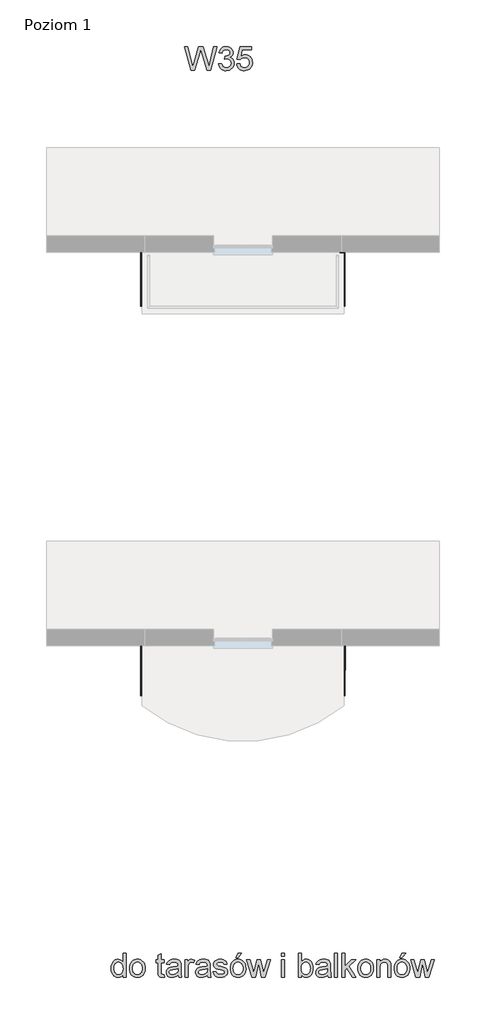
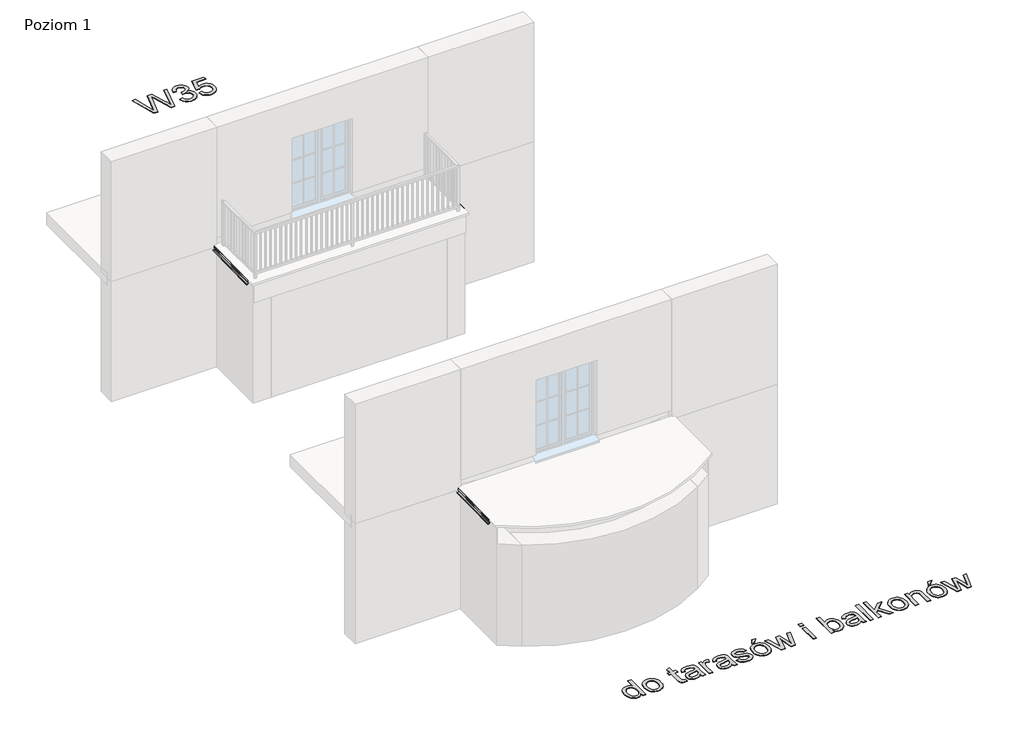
# One storey, part 2 of 4: 6 proxies.
"""IFC4 building model written with IfcOpenShell, lengths in millimetres."""

from ifc_helpers import new_model, si_unit, origin, origin_with_axes, place, context, project, spatial, polyline, outline, extrude, transform, mapped, element, save
from components import generic_models_76c9198c, generic_models_6ff2464a, generic_models_87c91727, generic_models_27867270

model = new_model("IFC4")

# Units and contexts
model_context = context("Model", 3, world=origin())
ifc_project = project(units=[si_unit("LENGTHUNIT", "METRE", prefix="MILLI")], contexts=[model_context])

# Site, building, storey
site = spatial("IfcSite", under=ifc_project)
building = spatial("IfcBuilding", under=site)
storey = spatial("IfcBuildingStorey", under=building, Name="Poziom 1", Elevation=0.0)

# Proxies
placement = place(None, origin())
generic_models_shape = generic_models_76c9198c(model_context)
element("IfcBuildingElementProxy", 1, Name="W35 Profil okapowy prosty : Renoplast", ObjectType="W35 Profil okapowy prosty : Renoplast", at=placement, inside=storey, context=model_context, shape_type="MappedRepresentation", body=[
    mapped(generic_models_shape, transform((-64498.8216237, -59151.9892013, -89.3259349), x_axis=(0.0, 0.9998161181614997, 0.019176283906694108), y_axis=(-1.0000000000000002, 0.0, 0.0), z_axis=(0.0, -0.019176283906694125, 0.9998161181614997))),
])
generic_models_2_shape = generic_models_6ff2464a(model_context)
element("IfcBuildingElementProxy", 2, Name="W35 Profil okapowy prosty : Renoplast", ObjectType="W35 Profil okapowy prosty : Renoplast", at=placement, inside=storey, context=model_context, shape_type="MappedRepresentation", body=[
    mapped(generic_models_2_shape, transform((-69624.8216237, -59152.1083642, -89.3282204), x_axis=(0.0, 0.9998161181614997, 0.019176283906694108), y_axis=(-1.0000000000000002, 0.0, 0.0), z_axis=(0.0, -0.019176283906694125, 0.9998161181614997))),
])
generic_models_3_shape = generic_models_87c91727(model_context)
element("IfcBuildingElementProxy", 3, Name="W35 Profil okapowy prosty : Renoplast", ObjectType="W35 Profil okapowy prosty : Renoplast", at=placement, inside=storey, context=model_context, shape_type="MappedRepresentation", body=[
    mapped(generic_models_3_shape, transform((-64498.6673242, -69053.3805455, -77.8164429), x_axis=(0.0011898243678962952, 0.9999301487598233, 0.011759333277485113), y_axis=(-0.9999992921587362, 0.0011897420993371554, 1.399155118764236e-05), z_axis=(0.0, -0.011759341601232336, 0.9999308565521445))),
])
generic_models_4_shape = generic_models_27867270(model_context)
element("IfcBuildingElementProxy", 4, Name="W35 Profil okapowy prosty : Renoplast", ObjectType="W35 Profil okapowy prosty : Renoplast", at=placement, inside=storey, context=model_context, shape_type="MappedRepresentation", body=[
    mapped(generic_models_4_shape, transform((-69625.5323175, -69053.3804574, -77.8164419), x_axis=(0.00024381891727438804, 0.999930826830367, 0.011759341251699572), y_axis=(-0.9999999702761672, 0.00024380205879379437, 2.8671499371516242e-06), z_axis=(0.0, -0.011759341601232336, 0.9999308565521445))),
])
element("IfcBuildingElementProxy", 5, Name="600 mm Arial", ObjectType="600 mm Arial", at=placement, inside=storey, context=model_context, shape_type="SweptSolid", body=[
    extrude(outline(polyline([(-68381.9990583, -53150.9895134), (-68546.3687337, -52548.2516525), (-68468.6720564, -52548.2516525), (-68373.3170432, -52944.3869849), (-68343.8864836, -53066.6709601), (-68312.3957848, -52958.5136536), (-68192.9077128, -52548.2516525), (-68080.9244335, -52548.2516525), (-67994.1042826, -52845.6474574), (-67956.9114129, -52956.012056), (-67929.5042042, -53066.6709601), (-67900.9565614, -52947.9186521), (-67804.7186315, -52548.2516525), (-67727.0219541, -52548.2516525), (-67891.5387823, -53150.9895134), (-67972.0313629, -53150.9895134), (-68116.5354106, -52685.9866715), (-68136.6953439, -52621.0922876), (-68159.3568748, -52699.2304234), (-68291.0586291, -53150.9895134), (-68381.9990583, -53150.9895134)])), origin_with_axes(), (0.0, 0.0, 1.0), 10.0),
    extrude(outline(polyline([(-67679.9330587, -52990.8872691), (-67604.5908261, -52981.4694901), (-67587.7234366, -53028.8159028), (-67576.3512844, -53046.722559), (-67563.0201606, -53060.7848482), (-67547.4265626, -53071.4074408), (-67529.2669876, -53078.995007), (-67508.5414357, -53083.5475467), (-67485.2499069, -53085.0650599), (-67457.9530628, -53082.9773296), (-67433.5992747, -53076.7141386), (-67412.1885426, -53066.275487), (-67393.7208665, -53051.6613747), (-67378.8492368, -53033.9662508), (-67368.2266442, -53014.284564), (-67361.8530886, -52992.6163145), (-67359.7285701, -52968.9615022), (-67361.8346945, -52946.4333285), (-67368.1530678, -52925.9377029), (-67378.6836899, -52907.4746253), (-67393.4265609, -52891.0440956), (-67411.4159904, -52877.556622), (-67431.6862884, -52867.9227122), (-67454.2374547, -52862.1423664), (-67479.0694893, -52860.2155844), (-67502.8714544, -52862.2757236), (-67531.8973438, -52868.4561411), (-67523.5096344, -52793.1139085), (-67511.4431049, -52793.9968253), (-67466.3039841, -52788.58896), (-67425.9473292, -52772.365364), (-67409.3374572, -52760.0964995), (-67397.4732628, -52744.9213672), (-67390.3547462, -52726.8399671), (-67387.9819073, -52705.8522993), (-67389.7017557, -52688.8147644), (-67394.8613006, -52673.3131368), (-67403.4605423, -52659.3474166), (-67415.4994806, -52646.9176036), (-67430.2515486, -52636.7134768), (-67446.9901794, -52629.4248148), (-67486.4271292, -52623.5938851), (-67507.0837033, -52625.0654131), (-67525.9376555, -52629.4799971), (-67542.988986, -52636.837637), (-67558.2376947, -52647.1383328), (-67571.3067026, -52660.3820847), (-67581.8189306, -52676.5688925), (-67589.7743787, -52695.6987562), (-67595.173047, -52717.7716759), (-67670.5152796, -52708.3538968), (-67661.5849442, -52672.3842348), (-67648.3319953, -52640.7003979), (-67630.756433, -52613.3023863), (-67608.8582572, -52590.1902), (-67583.3272468, -52571.8420855), (-67554.8531803, -52558.7362894), (-67523.436058, -52550.8728118), (-67489.0758796, -52548.2516525), (-67441.7110727, -52553.4203946), (-67398.2090268, -52568.9266207), (-67361.5311919, -52593.3907733), (-67334.639018, -52625.4332951), (-67318.1395106, -52662.3502533), (-67312.6396747, -52701.4377153), (-67317.8635991, -52737.8580329), (-67333.535372, -52770.893836), (-67359.4342645, -52799.0368086), (-67395.3395472, -52820.7786346), (-67370.2316011, -52828.6329152), (-67348.1770755, -52839.8349219), (-67329.1759704, -52854.3846548), (-67313.2282859, -52872.2821139), (-67300.6099335, -52893.0858407), (-67291.5968246, -52916.3543769), (-67286.1889593, -52942.0877225), (-67284.3863375, -52970.2858774), (-67287.991581, -53008.5088167), (-67298.8073117, -53043.7151236), (-67316.8335295, -53075.9047982), (-67342.0702343, -53105.0778404), (-67372.8159721, -53129.2844757), (-67407.3692885, -53146.5749295), (-67445.7301835, -53156.9492018), (-67487.8986572, -53160.4072925), (-67526.0112319, -53157.4550395), (-67560.7392923, -53148.5982805), (-67592.0828383, -53133.8370154), (-67620.0418699, -53113.1712443), (-67643.48515, -53087.8149778), (-67661.2814416, -53058.9822264), (-67673.4307444, -53026.6729902), (-67679.9330587, -52990.8872691)])), origin_with_axes(), (0.0, 0.0, 1.0), 10.0),
    extrude(outline(polyline([(-67218.461884, -52990.8872691), (-67143.1196513, -52981.4694901), (-67137.4910568, -53005.6899209), (-67129.2872883, -53026.7005814), (-67118.5083459, -53044.5014714), (-67105.1542294, -53059.092591), (-67089.2525302, -53070.4555462), (-67070.8308393, -53078.5719427), (-67049.8891567, -53083.4417806), (-67026.4274825, -53085.0650599), (-66997.7326869, -53082.8071842), (-66972.4224056, -53076.0335569), (-66950.4966387, -53064.7441782), (-66931.9553861, -53048.939048), (-66917.2125152, -53029.3999155), (-66906.681893, -53006.90853), (-66900.3635198, -52981.4648915), (-66898.2573954, -52953.069), (-66900.2301626, -52926.2320085), (-66906.1484642, -52902.3748611), (-66916.0123001, -52881.4975579), (-66929.8216705, -52863.6000988), (-66947.6225606, -52849.2435039), (-66969.4609555, -52838.9887933), (-66995.3368554, -52832.835967), (-67025.2502601, -52830.7850248), (-67061.7993363, -52834.0591746), (-67091.3954428, -52843.8816239), (-67115.031861, -52858.9279975), (-67133.7018723, -52877.8739202), (-67209.0441049, -52868.4561411), (-67143.1196513, -52557.6694316), (-66851.1685, -52557.6694316), (-66851.1685, -52633.0116642), (-67082.1983929, -52633.0116642), (-67114.4248557, -52799.0000204), (-67087.8361845, -52779.9437331), (-67060.6037198, -52766.3320993), (-67032.7274616, -52758.165119), (-67004.20741, -52755.4427922), (-66967.5157795, -52758.8181095), (-66933.8131902, -52768.9440614), (-66903.0996421, -52785.820648), (-66875.3751353, -52809.4478691), (-66852.4238973, -52838.381788), (-66836.0301559, -52871.1784679), (-66826.193911, -52907.8379087), (-66822.9151627, -52948.3601105), (-66825.8674158, -52987.3923902), (-66834.7241748, -53023.7023431), (-66849.4854398, -53057.2899693), (-66870.1512109, -53088.1552687), (-66901.4579687, -53119.7655291), (-66937.9886508, -53142.3442865), (-66979.7432573, -53155.891541), (-67026.7217881, -53160.4072925), (-67065.6023164, -53157.5056233), (-67100.7212514, -53148.8006156), (-67132.078593, -53134.2922694), (-67159.6743411, -53113.9805847), (-67182.6347762, -53088.8772371), (-67200.0861783, -53059.9939019), (-67212.0285476, -53027.3305793), (-67218.461884, -52990.8872691)])), origin_with_axes(), (0.0, 0.0, 1.0), 10.0),
])
element("IfcBuildingElementProxy", 6, Name="600 mm Arial", ObjectType="600 mm Arial", at=placement, inside=storey, context=model_context, shape_type="SweptSolid", body=[
    extrude(outline(polyline([(-70116.3162406, -76205.0457742), (-70116.3162406, -76133.9709728), (-70138.8582098, -76169.1864768), (-70166.1642509, -76194.3404082), (-70198.2343639, -76209.432767), (-70235.0685486, -76214.4635533), (-70259.9373715, -76212.6425374), (-70283.7761248, -76207.1794898), (-70306.5848085, -76198.0744104), (-70328.3634226, -76185.3272993), (-70348.4313854, -76169.319834), (-70366.1081153, -76150.433692), (-70381.3936122, -76128.6688735), (-70394.2878761, -76104.0253784), (-70404.5241927, -76076.9722561), (-70411.8358473, -76047.9785564), (-70417.685171, -75984.1694243), (-70412.2956998, -75921.1512386), (-70396.1272861, -75864.2398939), (-70384.0055744, -75838.8836274), (-70369.1983241, -75816.6727519), (-70351.7055352, -75797.6072675), (-70331.5272078, -75781.6871742), (-70309.3761131, -75769.1332011), (-70285.9650227, -75760.1660775), (-70261.2939364, -75754.7858033), (-70235.3628542, -75752.9923786), (-70198.5010783, -75758.1243324), (-70165.9067335, -75773.5201939), (-70138.2787957, -75797.1198239), (-70116.3162406, -75826.8630832), (-70116.3162406, -75602.3079133), (-70040.974008, -75602.3079133), (-70040.974008, -76205.0457742), (-70116.3162406, -76205.0457742)]), holes=[polyline([(-70342.3429384, -75983.8751187), (-70340.2184199, -76020.4103994), (-70333.8448643, -76052.0252583), (-70323.2222717, -76078.7196956), (-70308.3506421, -76100.4937112), (-70290.5911388, -76117.3932904), (-70271.3049252, -76129.4644183), (-70250.4920013, -76136.7070951), (-70228.1523671, -76139.1213207), (-70205.7069669, -76136.8174597), (-70185.0182032, -76129.9058767), (-70166.086076, -76118.3865717), (-70148.9105854, -76102.2595448), (-70134.6505595, -76081.3960371), (-70124.4648268, -76055.6672901), (-70118.3533871, -76025.0733037), (-70116.3162406, -75989.6140779), (-70118.3901753, -75950.738148), (-70124.6119796, -75917.3988422), (-70134.9816533, -75889.5961604), (-70149.4991966, -75867.3301027), (-70167.0517662, -75850.2695751), (-70186.5265194, -75838.083484), (-70207.9234559, -75830.7718294), (-70231.2425759, -75828.3346112), (-70254.0236684, -75830.6752604), (-70274.8365923, -75837.6972079), (-70293.6813475, -75849.4004539), (-70310.557934, -75865.7849983), (-70324.4638735, -75887.209526), (-70334.3966873, -75914.0327219), (-70340.3563756, -75946.2545862), (-70342.3429384, -75983.8751187)])]), origin_with_axes(), (0.0, 0.0, 1.0), 10.0),
    extrude(outline(polyline([(-69946.7962172, -75983.7279659), (-69942.7219241, -75926.402754), (-69930.4990448, -75877.0053991), (-69910.1275793, -75835.5359012), (-69881.6075277, -75801.9942603), (-69852.8943379, -75780.555937), (-69821.2013041, -75765.242849), (-69786.528426, -75756.0549962), (-69748.8757038, -75752.9923786), (-69707.3096369, -75756.7217823), (-69669.7258925, -75767.9099935), (-69636.1244708, -75786.5570121), (-69606.5053717, -75812.6628382), (-69582.3309261, -75845.3445549), (-69565.0634649, -75883.7192455), (-69554.7029882, -75927.78691), (-69551.249496, -75977.5475484), (-69552.7762063, -76017.8766121), (-69557.3563371, -76053.6623332), (-69564.9898885, -76084.9047117), (-69575.6768605, -76111.6037475), (-69589.2838958, -76134.66535), (-69605.6776372, -76154.9954288), (-69624.8580847, -76172.5939837), (-69646.8252383, -76187.4610149), (-69670.7237725, -76199.2746254), (-69695.6983614, -76207.7129187), (-69721.7490052, -76212.7758947), (-69748.8757038, -76214.4635533), (-69791.048776, -76210.7479452), (-69828.9820083, -76199.6011207), (-69862.6754005, -76181.0230799), (-69892.1289527, -76155.0138229), (-69916.0458809, -76122.0148079), (-69933.1294011, -76082.4674934), (-69943.3795132, -76036.3718794), (-69946.7962172, -75983.7279659)]), holes=[polyline([(-69871.4539846, -75983.5808131), (-69869.2742838, -76020.1252908), (-69862.7351813, -76051.7677409), (-69851.8366772, -76078.5081635), (-69836.5787715, -76100.3465584), (-69818.0191248, -76117.3105169), (-69797.215398, -76129.4276301), (-69774.167591, -76136.6978981), (-69748.8757038, -76139.1213207), (-69723.7125753, -76136.6841025), (-69700.7567388, -76129.3724478), (-69680.0081943, -76117.1863567), (-69661.4669417, -76100.1258292), (-69646.209036, -76078.0713036), (-69635.3105319, -76050.9032183), (-69628.7714294, -76018.6215732), (-69626.5917286, -75981.2263684), (-69628.785225, -75945.840719), (-69635.3657142, -75915.0260033), (-69646.3331962, -75888.7822215), (-69661.6876709, -75867.1093735), (-69680.2979014, -75850.145415), (-69701.0326503, -75838.0283017), (-69723.8919178, -75830.7580338), (-69748.8757038, -75828.3346112), (-69774.167591, -75830.7488368), (-69797.215398, -75837.9915135), (-69818.0191248, -75850.0626415), (-69836.5787715, -75866.9622207), (-69851.8366772, -75888.7362363), (-69862.7351813, -75915.4306735), (-69869.2742838, -75947.0455325), (-69871.4539846, -75983.5808131)])]), origin_with_axes(), (0.0, 0.0, 1.0), 10.0),
    extrude(outline(polyline([(-69070.9427631, -76142.2115295), (-69061.524984, -76207.2530662), (-69117.8845057, -76214.4635533), (-69154.0473058, -76211.3365563), (-69181.013056, -76201.9555655), (-69200.0693434, -76187.4978031), (-69212.5037548, -76169.1404915), (-69219.3463599, -76137.6130045), (-69221.6272283, -76083.6447158), (-69221.6272283, -75837.7523902), (-69278.1339028, -75837.7523902), (-69278.1339028, -75762.4101576), (-69221.6272283, -75762.4101576), (-69221.6272283, -75654.8414622), (-69146.2849957, -75610.54847), (-69146.2849957, -75762.4101576), (-69070.9427631, -75762.4101576), (-69070.9427631, -75837.7523902), (-69146.2849957, -75837.7523902), (-69146.2849957, -76081.4374239), (-69142.3118702, -76120.2857625), (-69129.4360003, -76134.0445492), (-69118.5650874, -76137.8521278), (-69103.7578371, -76139.1213207), (-69070.9427631, -76142.2115295)])), origin_with_axes(), (0.0, 0.0, 1.0), 10.0),
    extrude(outline(polyline([(-68713.0671582, -76148.5390998), (-68749.0644114, -76179.4043992), (-68786.1285224, -76199.6011207), (-68825.1056198, -76210.7479452), (-68866.8418322, -76214.4635533), (-68900.3880716, -76212.2286702), (-68929.8048356, -76205.5240208), (-68955.0921243, -76194.3496052), (-68976.2499375, -76178.7054234), (-68992.9563786, -76159.5847567), (-69004.8895509, -76137.9808865), (-69012.0494542, -76113.8938129), (-69014.4360886, -76087.3235358), (-69010.8308451, -76056.0903544), (-69000.0151144, -76027.7266526), (-68983.3316659, -76003.4464409), (-68962.1232689, -75984.4637299), (-68937.1992637, -75970.1163321), (-68909.3689908, -75959.7420598), (-68844.1803013, -75948.4112944), (-68767.1458115, -75936.4919178), (-68713.5086166, -75922.5124019), (-68713.0671582, -75905.736983), (-68718.2542943, -75872.1125686), (-68724.7382145, -75859.6597631), (-68733.8157027, -75850.1132253), (-68749.5058698, -75840.5850816), (-68768.6173395, -75833.7792647), (-68817.1041864, -75828.3346112), (-68861.9857898, -75831.9582488), (-68893.3293358, -75842.8291618), (-68914.7032797, -75862.9339128), (-68929.6760769, -75894.2590647), (-69005.0183096, -75884.8412856), (-68991.9401046, -75843.6385022), (-68972.4239648, -75811.2648866), (-68944.6488741, -75786.5064283), (-68906.7938168, -75768.1491168), (-68860.4958677, -75756.7815631), (-68807.3921017, -75752.9923786), (-68756.4588395, -75756.3401047), (-68716.0837905, -75766.3832832), (-68685.6415554, -75781.4848391), (-68664.5067348, -75800.0076975), (-68650.4904308, -75822.9083517), (-68641.4037455, -75851.1432949), (-68637.7249256, -75917.0677484), (-68637.7249256, -76010.8040808), (-68633.8989528, -76141.6964947), (-68628.2335701, -76174.0517161), (-68618.8893674, -76205.0457742), (-68694.2316, -76205.0457742), (-68706.2981295, -76178.8525762), (-68713.0671582, -76148.5390998)]), holes=[polyline([(-68713.0671582, -75997.8546345), (-68763.6877207, -76010.3994106), (-68834.6153694, -76020.9576238), (-68899.4361769, -76033.1713061), (-68916.3035664, -76041.5222274), (-68928.7931602, -76053.0369338), (-68936.5186821, -76066.8325086), (-68939.093856, -76082.026035), (-68933.4836556, -76104.4300486), (-68916.6530543, -76122.7873601), (-68888.9699342, -76135.0378305), (-68850.8021772, -76139.1213207), (-68810.3351577, -76134.6147663), (-68774.5770278, -76121.0951029), (-68745.5879266, -76101.1742929), (-68725.4279932, -76077.4642983), (-68716.4884607, -76053.0369338), (-68713.5086166, -76019.1917903), (-68713.0671582, -75997.8546345)])]), origin_with_axes(), (0.0, 0.0, 1.0), 10.0),
    extrude(outline(polyline([(-68534.1293557, -76205.0457742), (-68534.1293557, -75762.4101576), (-68468.2049022, -75762.4101576), (-68468.2049022, -75827.8931528), (-68443.8511141, -75789.9277309), (-68421.4103124, -75767.5605056), (-68398.8959343, -75756.6344103), (-68374.321417, -75752.9923786), (-68336.7974535, -75758.8049141), (-68298.6848788, -75776.2425207), (-68323.8480073, -75843.785655), (-68350.3355109, -75832.1973721), (-68376.8230146, -75828.3346112), (-68399.3189986, -75832.0502193), (-68419.4237496, -75843.1970438), (-68435.6657397, -75860.9289559), (-68446.5734409, -75884.3998272), (-68455.7337026, -75926.4855275), (-68458.7871231, -75972.3972005), (-68458.7871231, -76205.0457742), (-68534.1293557, -76205.0457742)])), origin_with_axes(), (0.0, 0.0, 1.0), 10.0),
    extrude(outline(polyline([(-67969.0626111, -76148.5390998), (-68005.0598644, -76179.4043992), (-68042.1239754, -76199.6011207), (-68081.1010728, -76210.7479452), (-68122.8372851, -76214.4635533), (-68156.3835246, -76212.2286702), (-68185.8002886, -76205.5240208), (-68211.0875772, -76194.3496052), (-68232.2453905, -76178.7054234), (-68248.9518316, -76159.5847567), (-68260.8850038, -76137.9808865), (-68268.0449071, -76113.8938129), (-68270.4315416, -76087.3235358), (-68266.826298, -76056.0903544), (-68256.0105674, -76027.7266526), (-68239.3271189, -76003.4464409), (-68218.1187219, -75984.4637299), (-68193.1947167, -75970.1163321), (-68165.3644438, -75959.7420598), (-68100.1757542, -75948.4112944), (-68023.1412644, -75936.4919178), (-67969.5040695, -75922.5124019), (-67969.0626111, -75905.736983), (-67974.2497473, -75872.1125686), (-67980.7336674, -75859.6597631), (-67989.8111557, -75850.1132253), (-68005.5013228, -75840.5850816), (-68024.6127924, -75833.7792647), (-68073.0996394, -75828.3346112), (-68117.9812428, -75831.9582488), (-68149.3247888, -75842.8291618), (-68170.6987327, -75862.9339128), (-68185.6715299, -75894.2590647), (-68261.0137625, -75884.8412856), (-68247.9355576, -75843.6385022), (-68228.4194177, -75811.2648866), (-68200.6443271, -75786.5064283), (-68162.7892698, -75768.1491168), (-68116.4913207, -75756.7815631), (-68063.3875547, -75752.9923786), (-68012.4542925, -75756.3401047), (-67972.0792435, -75766.3832832), (-67941.6370084, -75781.4848391), (-67920.5021878, -75800.0076975), (-67906.4858838, -75822.9083517), (-67897.3991985, -75851.1432949), (-67893.7203785, -75917.0677484), (-67893.7203785, -76010.8040808), (-67889.8944058, -76141.6964947), (-67884.229023, -76174.0517161), (-67874.8848204, -76205.0457742), (-67950.227053, -76205.0457742), (-67962.2935824, -76178.8525762), (-67969.0626111, -76148.5390998)]), holes=[polyline([(-67969.0626111, -75997.8546345), (-68019.6831737, -76010.3994106), (-68090.6108223, -76020.9576238), (-68155.4316299, -76033.1713061), (-68172.2990194, -76041.5222274), (-68184.7886131, -76053.0369338), (-68192.514135, -76066.8325086), (-68195.089309, -76082.026035), (-68189.4791085, -76104.4300486), (-68172.6485073, -76122.7873601), (-68144.9653871, -76135.0378305), (-68106.7976301, -76139.1213207), (-68066.3306107, -76134.6147663), (-68030.5724807, -76121.0951029), (-68001.5833795, -76101.1742929), (-67981.4234462, -76077.4642983), (-67972.4839137, -76053.0369338), (-67969.5040695, -76019.1917903), (-67969.0626111, -75997.8546345)])]), origin_with_axes(), (0.0, 0.0, 1.0), 10.0),
    extrude(outline(polyline([(-67818.3781459, -76073.1968672), (-67743.0359133, -76063.7790881), (-67738.4833736, -76080.9591773), (-67731.1533249, -76096.0055509), (-67721.045767, -76108.9182089), (-67708.1607002, -76119.6971514), (-67692.461336, -76128.1952254), (-67673.9108864, -76134.2652784), (-67628.2567308, -76139.1213207), (-67583.1543982, -76134.6699486), (-67565.6248211, -76129.1057334), (-67551.4429702, -76121.3158321), (-67532.6809885, -76101.9652392), (-67527.990493, -76091.1311144), (-67526.4269945, -76079.5244375), (-67527.9996901, -76069.3525003), (-67532.7177767, -76060.3209973), (-67551.590123, -76045.6792939), (-67579.806672, -76036.114362), (-67629.1396476, -76024.1949854), (-67697.8967925, -76004.3109636), (-67742.5944549, -75987.3332095), (-67771.3076446, -75968.810351), (-67792.1113715, -75944.2910161), (-67804.748118, -75915.338703), (-67808.9603668, -75883.5169104), (-67805.5758525, -75854.3254741), (-67795.4223094, -75827.378118), (-67779.4194426, -75803.7416998), (-67758.4869571, -75784.4830773), (-67737.6832303, -75772.3613656), (-67710.5887213, -75762.1894284), (-67679.2635694, -75755.291641), (-67645.7679138, -75752.9923786), (-67596.7292438, -75756.6895926), (-67554.0917206, -75767.7812348), (-67519.8051186, -75785.1820531), (-67495.8192125, -75807.8067958), (-67479.9267104, -75837.329326), (-67469.9203201, -75875.4235066), (-67545.2625527, -75884.8412856), (-67554.7723023, -75861.131291), (-67573.5894663, -75843.2706202), (-67601.8979859, -75832.0686134), (-67639.8818019, -75828.3346112), (-67683.1447245, -75831.9030665), (-67711.9866729, -75842.6084326), (-67728.2102689, -75858.0594764), (-67733.6181342, -75875.8649649), (-67731.3740541, -75887.4532478), (-67724.6418135, -75897.7907319), (-67713.1271071, -75907.0245699), (-67696.5356291, -75914.418998), (-67631.6412452, -75930.458653), (-67521.0559174, -75965.9224774), (-67491.846087, -75982.8818373), (-67469.6995909, -76006.0951912), (-67455.7384692, -76035.6361155), (-67451.0847619, -76071.5781864), (-67456.5478096, -76108.7342679), (-67472.9369524, -76143.6830574), (-67499.6267912, -76173.6838341), (-67535.9919264, -76195.9958772), (-67579.9170366, -76209.8466343), (-67629.2868004, -76214.4635533), (-67669.8365933, -76212.2378672), (-67705.2544324, -76205.560809), (-67735.5403176, -76194.4323787), (-67760.6942491, -76178.8525762), (-67781.2404585, -76158.8949779), (-67797.7031778, -76134.6331604), (-67810.0824069, -76106.0671234), (-67818.3781459, -76073.1968672)])), origin_with_axes(), (0.0, 0.0, 1.0), 10.0),
    extrude(outline(polyline([(-67243.8936222, -75715.3212623), (-67187.3869478, -75602.3079133), (-67093.209157, -75602.3079133), (-67187.3869478, -75715.3212623), (-67243.8936222, -75715.3212623)])), origin_with_axes(), (0.0, 0.0, 1.0), 10.0),
    extrude(outline(polyline([(-67385.1603084, -75983.7279659), (-67381.0860153, -75926.402754), (-67368.863136, -75877.0053991), (-67348.4916705, -75835.5359012), (-67319.9716188, -75801.9942603), (-67291.2584291, -75780.555937), (-67259.5653952, -75765.242849), (-67224.8925172, -75756.0549962), (-67187.239795, -75752.9923786), (-67145.6737281, -75756.7217823), (-67108.0899837, -75767.9099935), (-67074.488562, -75786.5570121), (-67044.8694629, -75812.6628382), (-67020.6950172, -75845.3445549), (-67003.4275561, -75883.7192455), (-66993.0670794, -75927.78691), (-66989.6135872, -75977.5475484), (-66991.1402975, -76017.8766121), (-66995.7204283, -76053.6623332), (-67003.3539797, -76084.9047117), (-67014.0409517, -76111.6037475), (-67027.647987, -76134.66535), (-67044.0417284, -76154.9954288), (-67063.2221759, -76172.5939837), (-67085.1893295, -76187.4610149), (-67109.0878636, -76199.2746254), (-67134.0624526, -76207.7129187), (-67160.1130964, -76212.7758947), (-67187.239795, -76214.4635533), (-67229.4128672, -76210.7479452), (-67267.3460994, -76199.6011207), (-67301.0394917, -76181.0230799), (-67330.4930439, -76155.0138229), (-67354.4099721, -76122.0148079), (-67371.4934923, -76082.4674934), (-67381.7436044, -76036.3718794), (-67385.1603084, -75983.7279659)]), holes=[polyline([(-67309.8180758, -75983.5808131), (-67307.638375, -76020.1252908), (-67301.0992725, -76051.7677409), (-67290.2007684, -76078.5081635), (-67274.9428626, -76100.3465584), (-67256.383216, -76117.3105169), (-67235.5794892, -76129.4276301), (-67212.5316822, -76136.6978981), (-67187.239795, -76139.1213207), (-67162.0766665, -76136.6841025), (-67139.12083, -76129.3724478), (-67118.3722855, -76117.1863567), (-67099.8310329, -76100.1258292), (-67084.5731272, -76078.0713036), (-67073.6746231, -76050.9032183), (-67067.1355206, -76018.6215732), (-67064.9558198, -75981.2263684), (-67067.1493162, -75945.840719), (-67073.7298054, -75915.0260033), (-67084.6972874, -75888.7822215), (-67100.0517621, -75867.1093735), (-67118.6619926, -75850.145415), (-67139.3967415, -75838.0283017), (-67162.256009, -75830.7580338), (-67187.239795, -75828.3346112), (-67212.5316822, -75830.7488368), (-67235.5794892, -75837.9915135), (-67256.383216, -75850.0626415), (-67274.9428626, -75866.9622207), (-67290.2007684, -75888.7362363), (-67301.0992725, -75915.4306735), (-67307.638375, -75947.0455325), (-67309.8180758, -75983.5808131)])]), origin_with_axes(), (0.0, 0.0, 1.0), 10.0),
    extrude(outline(polyline([(-66831.4243293, -76205.0457742), (-66966.0691395, -75762.4101576), (-66887.7838509, -75762.4101576), (-66811.4115487, -76020.6633182), (-66788.602865, -76112.9281226), (-66769.9144597, -76024.0478326), (-66709.1403541, -75762.4101576), (-66619.3771472, -75762.4101576), (-66558.8973472, -76023.3120686), (-66542.269081, -76103.8046492), (-66518.4303278, -76018.8974847), (-66441.9108728, -75762.4101576), (-66363.3312786, -75762.4101576), (-66499.0061584, -76205.0457742), (-66590.0937404, -76205.0457742), (-66647.9247901, -75945.4682384), (-66664.700209, -75864.5341995), (-66739.3066777, -76205.0457742), (-66831.4243293, -76205.0457742)])), origin_with_axes(), (0.0, 0.0, 1.0), 10.0),
    extrude(outline(polyline([(-66076.0890168, -75677.6501459), (-66076.0890168, -75602.3079133), (-66000.7467841, -75602.3079133), (-66000.7467841, -75677.6501459), (-66076.0890168, -75677.6501459)])), origin_with_axes(), (0.0, 0.0, 1.0), 10.0),
    extrude(outline(polyline([(-66076.0890168, -76205.0457742), (-66076.0890168, -75762.4101576), (-66000.7467841, -75762.4101576), (-66000.7467841, -76205.0457742), (-66076.0890168, -76205.0457742)])), origin_with_axes(), (0.0, 0.0, 1.0), 10.0),
    extrude(outline(polyline([(-65576.9467257, -76205.0457742), (-65652.2889583, -76205.0457742), (-65652.2889583, -75602.3079133), (-65576.9467257, -75602.3079133), (-65576.9467257, -75825.8330136), (-65552.1698733, -75793.9652358), (-65524.1924476, -75771.2025373), (-65493.0144485, -75757.5449182), (-65458.6358761, -75752.9923786), (-65419.8243256, -75757.0942628), (-65383.1464906, -75769.3999155), (-65350.6992987, -75789.1367846), (-65324.579677, -75815.5323177), (-65304.107044, -75848.3289976), (-65288.6008179, -75887.2693068), (-65278.8335509, -75930.7345645), (-65275.5777953, -75977.10609), (-65278.948514, -76030.6145262), (-65289.0606704, -76077.6850275), (-65305.9142643, -76118.3175939), (-65329.5092957, -76152.5122253), (-65357.8316108, -76179.6159313), (-65388.8670557, -76198.9757213), (-65422.6156302, -76210.5915953), (-65459.0773344, -76214.4635533), (-65494.587144, -76209.4695552), (-65526.0686458, -76194.487561), (-65553.5218397, -76169.5175705), (-65576.9467257, -76134.559584), (-65576.9467257, -76205.0457742)]), holes=[polyline([(-65576.9467257, -75980.6377572), (-65571.7963778, -76043.472002), (-65565.3584429, -76067.273967), (-65556.345334, -76085.9991606), (-65538.08919, -76109.2401056), (-65516.8715959, -76125.8407807), (-65492.6925518, -76135.8011857), (-65465.5520576, -76139.1213207), (-65443.0192854, -76136.6749054), (-65422.0684057, -76129.3356596), (-65402.6994187, -76117.1035833), (-65384.9123242, -76099.9786764), (-65370.0406946, -76078.0069242), (-65359.418102, -76051.234312), (-65353.0445464, -76019.6608398), (-65350.9200279, -75983.2865075), (-65352.9571744, -75946.2223965), (-65359.0686141, -75914.3454216), (-65369.2543468, -75887.6555829), (-65383.5143726, -75866.1528803), (-65400.6622721, -75849.6073875), (-65419.5116259, -75837.7891784), (-65440.0624338, -75830.698253), (-65462.314696, -75828.3346112), (-65484.8474682, -75830.7810264), (-65505.7983478, -75838.1202722), (-65525.1673349, -75850.3523486), (-65542.9544293, -75867.4772555), (-65557.826059, -75889.2282784), (-65568.4486516, -75915.338703), (-65574.8222072, -75945.8085293), (-65576.9467257, -75980.6377572)])]), origin_with_axes(), (0.0, 0.0, 1.0), 10.0),
    extrude(outline(polyline([(-64908.2844113, -76148.5390998), (-64944.2816645, -76179.4043992), (-64981.3457755, -76199.6011207), (-65020.3228729, -76210.7479452), (-65062.0590853, -76214.4635533), (-65095.6053247, -76212.2286702), (-65125.0220887, -76205.5240208), (-65150.3093774, -76194.3496052), (-65171.4671906, -76178.7054234), (-65188.1736317, -76159.5847567), (-65200.1068039, -76137.9808865), (-65207.2667073, -76113.8938129), (-65209.6533417, -76087.3235358), (-65206.0480982, -76056.0903544), (-65195.2323675, -76027.7266526), (-65178.548919, -76003.4464409), (-65157.340522, -75984.4637299), (-65132.4165168, -75970.1163321), (-65104.5862439, -75959.7420598), (-65039.3975543, -75948.4112944), (-64962.3630646, -75936.4919178), (-64908.7258697, -75922.5124019), (-64908.2844113, -75905.736983), (-64913.4715474, -75872.1125686), (-64919.9554676, -75859.6597631), (-64929.0329558, -75850.1132253), (-64944.7231229, -75840.5850816), (-64963.8345925, -75833.7792647), (-65012.3214395, -75828.3346112), (-65057.2030429, -75831.9582488), (-65088.5465889, -75842.8291618), (-65109.9205328, -75862.9339128), (-65124.89333, -75894.2590647), (-65200.2355626, -75884.8412856), (-65187.1573577, -75843.6385022), (-65167.6412179, -75811.2648866), (-65139.8661272, -75786.5064283), (-65102.0110699, -75768.1491168), (-65055.7131208, -75756.7815631), (-65002.6093548, -75752.9923786), (-64951.6760926, -75756.3401047), (-64911.3010436, -75766.3832832), (-64880.8588085, -75781.4848391), (-64859.7239879, -75800.0076975), (-64845.7076839, -75822.9083517), (-64836.6209986, -75851.1432949), (-64832.9421787, -75917.0677484), (-64832.9421787, -76010.8040808), (-64829.1162059, -76141.6964947), (-64823.4508232, -76174.0517161), (-64814.1066205, -76205.0457742), (-64889.4488531, -76205.0457742), (-64901.5153826, -76178.8525762), (-64908.2844113, -76148.5390998)]), holes=[polyline([(-64908.2844113, -75997.8546345), (-64958.9049738, -76010.3994106), (-65029.8326225, -76020.9576238), (-65094.65343, -76033.1713061), (-65111.5208195, -76041.5222274), (-65124.0104132, -76053.0369338), (-65131.7359351, -76066.8325086), (-65134.3111091, -76082.026035), (-65128.7009087, -76104.4300486), (-65111.8703074, -76122.7873601), (-65084.1871873, -76135.0378305), (-65046.0194303, -76139.1213207), (-65005.5524108, -76134.6147663), (-64969.7942809, -76121.0951029), (-64940.8051796, -76101.1742929), (-64920.6452463, -76077.4642983), (-64911.7057138, -76053.0369338), (-64908.7258697, -76019.1917903), (-64908.2844113, -75997.8546345)])]), origin_with_axes(), (0.0, 0.0, 1.0), 10.0),
    extrude(outline(polyline([(-64729.3466088, -76205.0457742), (-64729.3466088, -75602.3079133), (-64654.0043762, -75602.3079133), (-64654.0043762, -76205.0457742), (-64729.3466088, -76205.0457742)])), origin_with_axes(), (0.0, 0.0, 1.0), 10.0),
    extrude(outline(polyline([(-64540.9910273, -76205.0457742), (-64540.9910273, -75602.3079133), (-64465.6487947, -75602.3079133), (-64465.6487947, -75926.1912219), (-64296.7173825, -75762.4101576), (-64192.5332015, -75762.4101576), (-64363.5247528, -75928.2513611), (-64183.1154224, -76205.0457742), (-64271.1127956, -76205.0457742), (-64417.5298297, -75980.6377572), (-64465.6487947, -76027.2851942), (-64465.6487947, -76205.0457742), (-64540.9910273, -76205.0457742)])), origin_with_axes(), (0.0, 0.0, 1.0), 10.0),
    extrude(outline(polyline([(-64136.026527, -75983.7279659), (-64131.9522339, -75926.402754), (-64119.7293546, -75877.0053991), (-64099.3578891, -75835.5359012), (-64070.8378374, -75801.9942603), (-64042.1246477, -75780.555937), (-64010.4316138, -75765.242849), (-63975.7587358, -75756.0549962), (-63938.1060136, -75752.9923786), (-63896.5399467, -75756.7217823), (-63858.9562023, -75767.9099935), (-63825.3547806, -75786.5570121), (-63795.7356815, -75812.6628382), (-63771.5612358, -75845.3445549), (-63754.2937747, -75883.7192455), (-63743.933298, -75927.78691), (-63740.4798058, -75977.5475484), (-63742.0065161, -76017.8766121), (-63746.5866469, -76053.6623332), (-63754.2201983, -76084.9047117), (-63764.9071703, -76111.6037475), (-63778.5142056, -76134.66535), (-63794.907947, -76154.9954288), (-63814.0883945, -76172.5939837), (-63836.0555481, -76187.4610149), (-63859.9540822, -76199.2746254), (-63884.9286712, -76207.7129187), (-63910.979315, -76212.7758947), (-63938.1060136, -76214.4635533), (-63980.2790858, -76210.7479452), (-64018.212318, -76199.6011207), (-64051.9057103, -76181.0230799), (-64081.3592625, -76155.0138229), (-64105.2761907, -76122.0148079), (-64122.3597109, -76082.4674934), (-64132.609823, -76036.3718794), (-64136.026527, -75983.7279659)]), holes=[polyline([(-64060.6842944, -75983.5808131), (-64058.5045936, -76020.1252908), (-64051.9654911, -76051.7677409), (-64041.066987, -76078.5081635), (-64025.8090812, -76100.3465584), (-64007.2494346, -76117.3105169), (-63986.4457078, -76129.4276301), (-63963.3979008, -76136.6978981), (-63938.1060136, -76139.1213207), (-63912.9428851, -76136.6841025), (-63889.9870486, -76129.3724478), (-63869.2385041, -76117.1863567), (-63850.6972515, -76100.1258292), (-63835.4393458, -76078.0713036), (-63824.5408417, -76050.9032183), (-63818.0017392, -76018.6215732), (-63815.8220384, -75981.2263684), (-63818.0155348, -75945.840719), (-63824.596024, -75915.0260033), (-63835.563506, -75888.7822215), (-63850.9179807, -75867.1093735), (-63869.5282112, -75850.145415), (-63890.2629601, -75838.0283017), (-63913.1222276, -75830.7580338), (-63938.1060136, -75828.3346112), (-63963.3979008, -75830.7488368), (-63986.4457078, -75837.9915135), (-64007.2494346, -75850.0626415), (-64025.8090812, -75866.9622207), (-64041.066987, -75888.7362363), (-64051.9654911, -75915.4306735), (-64058.5045936, -75947.0455325), (-64060.6842944, -75983.5808131)])]), origin_with_axes(), (0.0, 0.0, 1.0), 10.0),
    extrude(outline(polyline([(-63655.7197941, -76205.0457742), (-63655.7197941, -75762.4101576), (-63580.3775615, -75762.4101576), (-63580.3775615, -75824.2143328), (-63554.2027575, -75793.0547278), (-63522.767241, -75770.7978671), (-63486.071012, -75757.4437507), (-63444.1140705, -75752.9923786), (-63406.976383, -75756.579228), (-63372.9656926, -75767.3397764), (-63344.6019908, -75783.9312544), (-63324.4052692, -75805.0108927), (-63310.7016649, -75830.523509), (-63301.8173147, -75860.4139212), (-63297.8441892, -75933.2545562), (-63297.8441892, -76205.0457742), (-63373.1864218, -76205.0457742), (-63373.1864218, -75943.4080993), (-63375.3569256, -75904.449396), (-63381.8684369, -75876.7478817), (-63393.879784, -75856.9006481), (-63412.5497953, -75841.5047866), (-63436.4805191, -75831.627155), (-63464.2740038, -75828.3346112), (-63487.1516654, -75830.1832182), (-63508.4014491, -75835.7290393), (-63528.023355, -75844.9720744), (-63546.0173831, -75857.9123236), (-63561.0499612, -75876.0213148), (-63571.7875169, -75900.770576), (-63578.2300503, -75932.1601073), (-63580.3775615, -75970.1899085), (-63580.3775615, -76205.0457742), (-63655.7197941, -76205.0457742)])), origin_with_axes(), (0.0, 0.0, 1.0), 10.0),
    extrude(outline(polyline([(-63071.8174913, -75715.3212623), (-63015.3108169, -75602.3079133), (-62921.1330261, -75602.3079133), (-63015.3108169, -75715.3212623), (-63071.8174913, -75715.3212623)])), origin_with_axes(), (0.0, 0.0, 1.0), 10.0),
    extrude(outline(polyline([(-63213.0841775, -75983.7279659), (-63209.0098844, -75926.402754), (-63196.7870051, -75877.0053991), (-63176.4155396, -75835.5359012), (-63147.8954879, -75801.9942603), (-63119.1822982, -75780.555937), (-63087.4892643, -75765.242849), (-63052.8163863, -75756.0549962), (-63015.1636641, -75752.9923786), (-62973.5975972, -75756.7217823), (-62936.0138528, -75767.9099935), (-62902.4124311, -75786.5570121), (-62872.793332, -75812.6628382), (-62848.6188863, -75845.3445549), (-62831.3514252, -75883.7192455), (-62820.9909485, -75927.78691), (-62817.5374563, -75977.5475484), (-62819.0641666, -76017.8766121), (-62823.6442974, -76053.6623332), (-62831.2778488, -76084.9047117), (-62841.9648208, -76111.6037475), (-62855.5718561, -76134.66535), (-62871.9655975, -76154.9954288), (-62891.146045, -76172.5939837), (-62913.1131986, -76187.4610149), (-62937.0117327, -76199.2746254), (-62961.9863217, -76207.7129187), (-62988.0369655, -76212.7758947), (-63015.1636641, -76214.4635533), (-63057.3367363, -76210.7479452), (-63095.2699685, -76199.6011207), (-63128.9633608, -76181.0230799), (-63158.416913, -76155.0138229), (-63182.3338412, -76122.0148079), (-63199.4173614, -76082.4674934), (-63209.6674735, -76036.3718794), (-63213.0841775, -75983.7279659)]), holes=[polyline([(-63137.7419449, -75983.5808131), (-63135.5622441, -76020.1252908), (-63129.0231416, -76051.7677409), (-63118.1246375, -76078.5081635), (-63102.8667317, -76100.3465584), (-63084.3070851, -76117.3105169), (-63063.5033583, -76129.4276301), (-63040.4555513, -76136.6978981), (-63015.1636641, -76139.1213207), (-62990.0005356, -76136.6841025), (-62967.0446991, -76129.3724478), (-62946.2961546, -76117.1863567), (-62927.754902, -76100.1258292), (-62912.4969963, -76078.0713036), (-62901.5984922, -76050.9032183), (-62895.0593897, -76018.6215732), (-62892.8796889, -75981.2263684), (-62895.0731853, -75945.840719), (-62901.6536745, -75915.0260033), (-62912.6211565, -75888.7822215), (-62927.9756312, -75867.1093735), (-62946.5858617, -75850.145415), (-62967.3206106, -75838.0283017), (-62990.1798781, -75830.7580338), (-63015.1636641, -75828.3346112), (-63040.4555513, -75830.7488368), (-63063.5033583, -75837.9915135), (-63084.3070851, -75850.0626415), (-63102.8667317, -75866.9622207), (-63118.1246375, -75888.7362363), (-63129.0231416, -75915.4306735), (-63135.5622441, -75947.0455325), (-63137.7419449, -75983.5808131)])]), origin_with_axes(), (0.0, 0.0, 1.0), 10.0),
    extrude(outline(polyline([(-62659.3481984, -76205.0457742), (-62793.9930086, -75762.4101576), (-62715.70772, -75762.4101576), (-62639.3354178, -76020.6633182), (-62616.5267341, -76112.9281226), (-62597.8383288, -76024.0478326), (-62537.0642232, -75762.4101576), (-62447.3010163, -75762.4101576), (-62386.8212163, -76023.3120686), (-62370.1929501, -76103.8046492), (-62346.3541969, -76018.8974847), (-62269.8347419, -75762.4101576), (-62191.2551477, -75762.4101576), (-62326.9300275, -76205.0457742), (-62418.0176095, -76205.0457742), (-62475.8486592, -75945.4682384), (-62492.6240781, -75864.5341995), (-62567.2305468, -76205.0457742), (-62659.3481984, -76205.0457742)])), origin_with_axes(), (0.0, 0.0, 1.0), 10.0),
])

save(model, "model.ifc")
